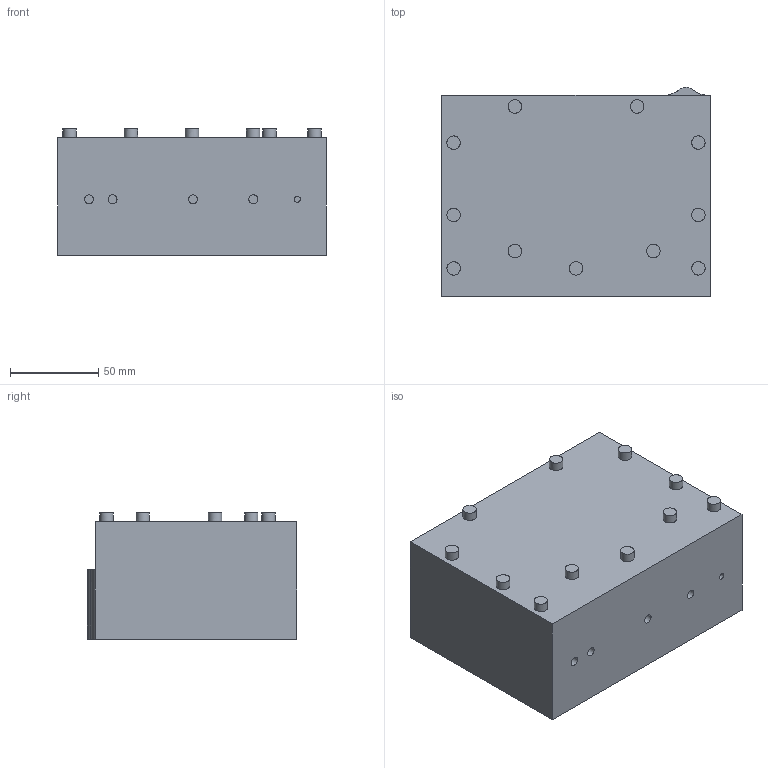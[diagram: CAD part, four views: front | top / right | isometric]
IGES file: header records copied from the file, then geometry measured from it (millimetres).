
Global section: file name: /Users/Pablo/Desktop/atomoptics:projects/laser_cover/drawings/igs/laser_mold_main.igs; native system: VectorWorks; preprocessor: HarmonyWare IGES v1.6.3; date: 20100907.145454; units: millimetre
Bounding box: 152.4 x 118.75 x 71.75 mm (x, y, z)
Surface area: 75454.5 mm2 (no closed solid volume)
Topology: 0 solids, 0 shells, 50 faces, 408 edges, 368 vertices
Faces by surface type: bspline 50
